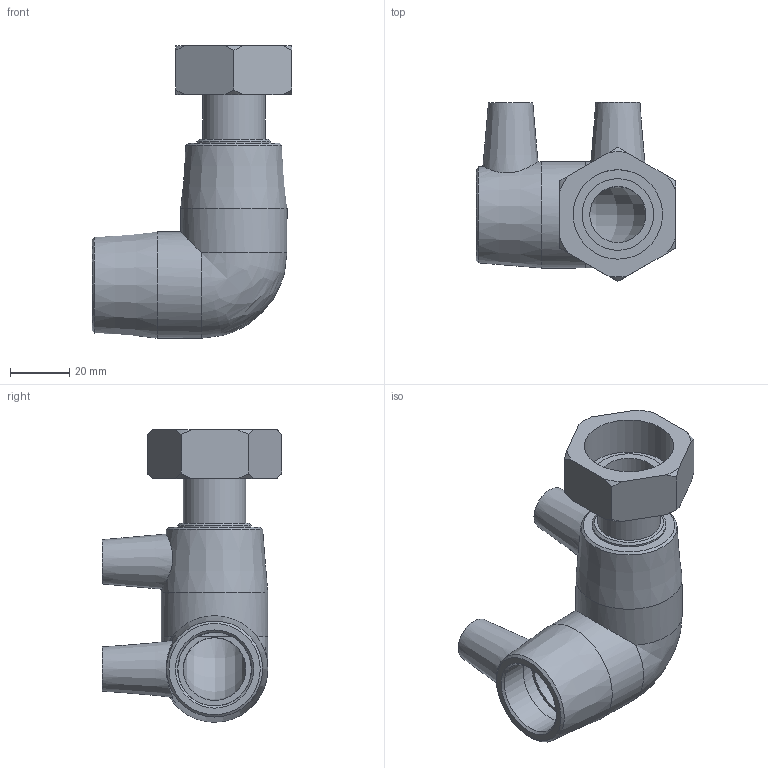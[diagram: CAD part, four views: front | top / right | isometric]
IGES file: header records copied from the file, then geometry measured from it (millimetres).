
Global section: file name: 494504025010.ipt; native system: Autodesk Inventor 2015; preprocessor: unknown; author: KIM; date: 20180426.120814; units: millimetre
Bounding box: 67.67 x 60.72 x 99 mm (x, y, z)
Volume: 73984.1 mm3; surface area: 29697.9 mm2
Topology: 1 solids, 2 shells, 63 faces, 151 edges, 100 vertices
Faces by surface type: plane 24, cone 19, revolution 11, cylinder 8, bspline 1
Full cylindrical faces by diameter (mm): 4 x2, 21.204 x1, 24.233 x1, 25 x2, 36 x2
